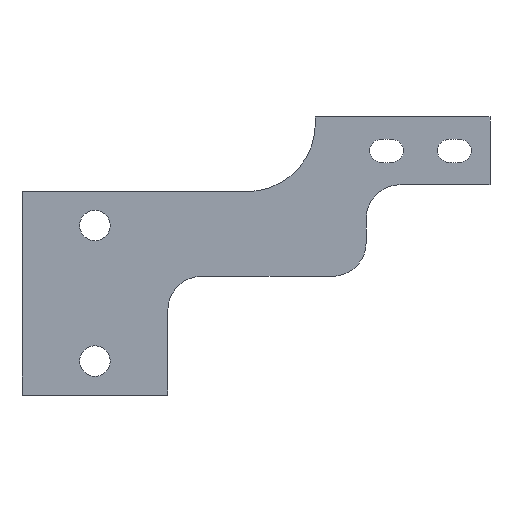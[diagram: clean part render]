
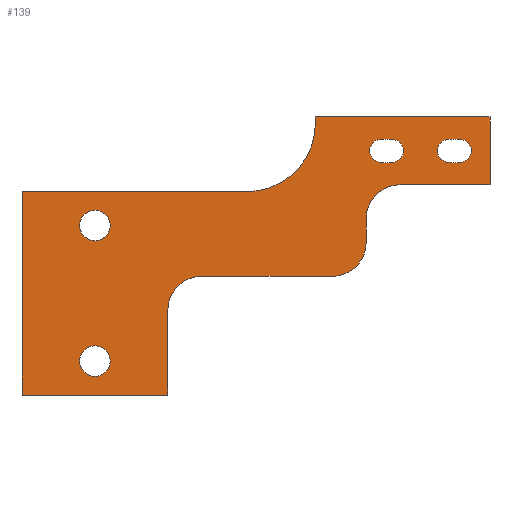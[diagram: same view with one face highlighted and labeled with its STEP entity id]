
A CAD part, front view. The second image highlights one B-rep face of the part: STEP entity #139.
In plain terms, the highlighted planar face has unit normal (0, -1, 0).
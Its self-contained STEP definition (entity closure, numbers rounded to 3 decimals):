
#103=PLANE('',#784);
#123=FACE_BOUND('',#217,.T.);
#124=FACE_BOUND('',#218,.T.);
#125=FACE_BOUND('',#219,.T.);
#126=FACE_BOUND('',#220,.T.);
#127=FACE_BOUND('',#221,.T.);
#139=ADVANCED_FACE('',(#123,#124,#125,#126,#127),#103,.T.);
#217=EDGE_LOOP('',(#399,#400,#401,#402,#403,#404,#405,#406));
#218=EDGE_LOOP('',(#407,#408,#409,#410,#411,#412,#413,#414,#415,#416,#417,
#418,#419,#420));
#219=EDGE_LOOP('',(#421));
#220=EDGE_LOOP('',(#422));
#221=EDGE_LOOP('',(#423,#424,#425,#426,#427,#428,#429,#430));
#263=LINE('',#1039,#329);
#264=LINE('',#1044,#330);
#265=LINE('',#1048,#331);
#266=LINE('',#1052,#332);
#267=LINE('',#1055,#333);
#268=LINE('',#1060,#334);
#269=LINE('',#1064,#335);
#270=LINE('',#1066,#336);
#271=LINE('',#1068,#337);
#272=LINE('',#1070,#338);
#273=LINE('',#1074,#339);
#274=LINE('',#1076,#340);
#275=LINE('',#1078,#341);
#276=LINE('',#1080,#342);
#277=LINE('',#1087,#343);
#278=LINE('',#1091,#344);
#279=LINE('',#1092,#345);
#280=LINE('',#1096,#346);
#329=VECTOR('',#846,1.);
#330=VECTOR('',#849,1.);
#331=VECTOR('',#852,1.);
#332=VECTOR('',#855,1.);
#333=VECTOR('',#858,1.);
#334=VECTOR('',#861,1.);
#335=VECTOR('',#864,1.);
#336=VECTOR('',#865,1.);
#337=VECTOR('',#866,1.);
#338=VECTOR('',#867,1.);
#339=VECTOR('',#870,1.);
#340=VECTOR('',#871,1.);
#341=VECTOR('',#872,1.);
#342=VECTOR('',#873,1.);
#343=VECTOR('',#880,1.);
#344=VECTOR('',#883,1.);
#345=VECTOR('',#884,1.);
#346=VECTOR('',#887,1.);
#399=ORIENTED_EDGE('',*,*,#651,.F.);
#400=ORIENTED_EDGE('',*,*,#652,.F.);
#401=ORIENTED_EDGE('',*,*,#653,.F.);
#402=ORIENTED_EDGE('',*,*,#654,.F.);
#403=ORIENTED_EDGE('',*,*,#655,.F.);
#404=ORIENTED_EDGE('',*,*,#656,.F.);
#405=ORIENTED_EDGE('',*,*,#657,.F.);
#406=ORIENTED_EDGE('',*,*,#658,.F.);
#407=ORIENTED_EDGE('',*,*,#659,.F.);
#408=ORIENTED_EDGE('',*,*,#660,.T.);
#409=ORIENTED_EDGE('',*,*,#661,.F.);
#410=ORIENTED_EDGE('',*,*,#662,.T.);
#411=ORIENTED_EDGE('',*,*,#663,.F.);
#412=ORIENTED_EDGE('',*,*,#664,.F.);
#413=ORIENTED_EDGE('',*,*,#665,.F.);
#414=ORIENTED_EDGE('',*,*,#666,.F.);
#415=ORIENTED_EDGE('',*,*,#667,.T.);
#416=ORIENTED_EDGE('',*,*,#668,.F.);
#417=ORIENTED_EDGE('',*,*,#669,.F.);
#418=ORIENTED_EDGE('',*,*,#670,.F.);
#419=ORIENTED_EDGE('',*,*,#671,.F.);
#420=ORIENTED_EDGE('',*,*,#672,.T.);
#421=ORIENTED_EDGE('',*,*,#673,.F.);
#422=ORIENTED_EDGE('',*,*,#674,.T.);
#423=ORIENTED_EDGE('',*,*,#643,.F.);
#424=ORIENTED_EDGE('',*,*,#675,.T.);
#425=ORIENTED_EDGE('',*,*,#676,.T.);
#426=ORIENTED_EDGE('',*,*,#677,.T.);
#427=ORIENTED_EDGE('',*,*,#647,.F.);
#428=ORIENTED_EDGE('',*,*,#678,.T.);
#429=ORIENTED_EDGE('',*,*,#679,.T.);
#430=ORIENTED_EDGE('',*,*,#680,.T.);
#579=VERTEX_POINT('',#1022);
#580=VERTEX_POINT('',#1023);
#583=VERTEX_POINT('',#1031);
#584=VERTEX_POINT('',#1032);
#587=VERTEX_POINT('',#1040);
#588=VERTEX_POINT('',#1041);
#589=VERTEX_POINT('',#1043);
#590=VERTEX_POINT('',#1045);
#591=VERTEX_POINT('',#1047);
#592=VERTEX_POINT('',#1049);
#593=VERTEX_POINT('',#1051);
#594=VERTEX_POINT('',#1053);
#595=VERTEX_POINT('',#1056);
#596=VERTEX_POINT('',#1057);
#597=VERTEX_POINT('',#1059);
#598=VERTEX_POINT('',#1061);
#599=VERTEX_POINT('',#1063);
#600=VERTEX_POINT('',#1065);
#601=VERTEX_POINT('',#1067);
#602=VERTEX_POINT('',#1069);
#603=VERTEX_POINT('',#1071);
#604=VERTEX_POINT('',#1073);
#605=VERTEX_POINT('',#1075);
#606=VERTEX_POINT('',#1077);
#607=VERTEX_POINT('',#1079);
#608=VERTEX_POINT('',#1081);
#609=VERTEX_POINT('',#1084);
#610=VERTEX_POINT('',#1086);
#611=VERTEX_POINT('',#1088);
#612=VERTEX_POINT('',#1090);
#613=VERTEX_POINT('',#1093);
#614=VERTEX_POINT('',#1095);
#643=EDGE_CURVE('',#579,#580,#737,.T.);
#647=EDGE_CURVE('',#583,#584,#739,.T.);
#651=EDGE_CURVE('',#587,#588,#263,.T.);
#652=EDGE_CURVE('',#589,#587,#741,.T.);
#653=EDGE_CURVE('',#590,#589,#264,.T.);
#654=EDGE_CURVE('',#591,#590,#742,.T.);
#655=EDGE_CURVE('',#592,#591,#265,.T.);
#656=EDGE_CURVE('',#593,#592,#743,.T.);
#657=EDGE_CURVE('',#594,#593,#266,.T.);
#658=EDGE_CURVE('',#588,#594,#744,.T.);
#659=EDGE_CURVE('',#595,#596,#267,.T.);
#660=EDGE_CURVE('',#595,#597,#745,.T.);
#661=EDGE_CURVE('',#598,#597,#268,.T.);
#662=EDGE_CURVE('',#598,#599,#746,.T.);
#663=EDGE_CURVE('',#600,#599,#269,.T.);
#664=EDGE_CURVE('',#601,#600,#270,.T.);
#665=EDGE_CURVE('',#602,#601,#271,.T.);
#666=EDGE_CURVE('',#603,#602,#272,.T.);
#667=EDGE_CURVE('',#603,#604,#747,.T.);
#668=EDGE_CURVE('',#605,#604,#273,.T.);
#669=EDGE_CURVE('',#606,#605,#274,.T.);
#670=EDGE_CURVE('',#607,#606,#275,.T.);
#671=EDGE_CURVE('',#608,#607,#276,.T.);
#672=EDGE_CURVE('',#608,#596,#748,.T.);
#673=EDGE_CURVE('',#609,#609,#749,.T.);
#674=EDGE_CURVE('',#610,#610,#750,.T.);
#675=EDGE_CURVE('',#579,#611,#277,.T.);
#676=EDGE_CURVE('',#611,#612,#751,.T.);
#677=EDGE_CURVE('',#612,#584,#278,.T.);
#678=EDGE_CURVE('',#583,#613,#279,.T.);
#679=EDGE_CURVE('',#613,#614,#752,.T.);
#680=EDGE_CURVE('',#614,#580,#280,.T.);
#737=CIRCLE('',#766,3.5);
#739=CIRCLE('',#769,3.5);
#741=CIRCLE('',#772,3.5);
#742=CIRCLE('',#773,3.4);
#743=CIRCLE('',#774,3.5);
#744=CIRCLE('',#775,3.4);
#745=CIRCLE('',#776,10.);
#746=CIRCLE('',#777,10.);
#747=CIRCLE('',#778,20.);
#748=CIRCLE('',#779,10.);
#749=CIRCLE('',#780,4.5);
#750=CIRCLE('',#781,4.5);
#751=CIRCLE('',#782,3.4);
#752=CIRCLE('',#783,3.4);
#766=AXIS2_PLACEMENT_3D('',#1021,#830,#831);
#769=AXIS2_PLACEMENT_3D('',#1030,#838,#839);
#772=AXIS2_PLACEMENT_3D('',#1042,#847,#848);
#773=AXIS2_PLACEMENT_3D('',#1046,#850,#851);
#774=AXIS2_PLACEMENT_3D('',#1050,#853,#854);
#775=AXIS2_PLACEMENT_3D('',#1054,#856,#857);
#776=AXIS2_PLACEMENT_3D('',#1058,#859,#860);
#777=AXIS2_PLACEMENT_3D('',#1062,#862,#863);
#778=AXIS2_PLACEMENT_3D('',#1072,#868,#869);
#779=AXIS2_PLACEMENT_3D('',#1082,#874,#875);
#780=AXIS2_PLACEMENT_3D('',#1083,#876,#877);
#781=AXIS2_PLACEMENT_3D('',#1085,#878,#879);
#782=AXIS2_PLACEMENT_3D('',#1089,#881,#882);
#783=AXIS2_PLACEMENT_3D('',#1094,#885,#886);
#784=AXIS2_PLACEMENT_3D('',#1097,#888,#889);
#830=DIRECTION('',(0.,-1.,0.));
#831=DIRECTION('',(1.,0.,0.));
#838=DIRECTION('',(0.,-1.,0.));
#839=DIRECTION('',(1.,0.,0.));
#846=DIRECTION('',(1.,0.,0.));
#847=DIRECTION('',(0.,-1.,0.));
#848=DIRECTION('',(1.,0.,0.));
#849=DIRECTION('',(1.,0.,0.));
#850=DIRECTION('',(0.,-1.,0.));
#851=DIRECTION('',(0.,0.,-1.));
#852=DIRECTION('',(-1.,0.,0.));
#853=DIRECTION('',(0.,-1.,0.));
#854=DIRECTION('',(1.,0.,0.));
#855=DIRECTION('',(-1.,0.,0.));
#856=DIRECTION('',(0.,-1.,0.));
#857=DIRECTION('',(0.,0.,-1.));
#858=DIRECTION('',(-1.,0.,0.));
#859=DIRECTION('',(0.,-1.,0.));
#860=DIRECTION('',(0.,0.,-1.));
#861=DIRECTION('',(0.,0.,-1.));
#862=DIRECTION('',(0.,1.,0.));
#863=DIRECTION('',(0.,0.,-1.));
#864=DIRECTION('',(-1.,0.,0.));
#865=DIRECTION('',(0.,0.,-1.));
#866=DIRECTION('',(1.,0.,0.));
#867=DIRECTION('',(0.,0.,1.));
#868=DIRECTION('',(0.,1.,0.));
#869=DIRECTION('',(0.,0.,-1.));
#870=DIRECTION('',(1.,0.,0.));
#871=DIRECTION('',(0.,0.,1.));
#872=DIRECTION('',(-1.,0.,0.));
#873=DIRECTION('',(0.,0.,-1.));
#874=DIRECTION('',(0.,1.,0.));
#875=DIRECTION('',(0.,0.,-1.));
#876=DIRECTION('',(0.,-1.,0.));
#877=DIRECTION('',(1.,0.,0.));
#878=DIRECTION('',(0.,1.,0.));
#879=DIRECTION('',(1.,0.,0.));
#880=DIRECTION('',(-1.,0.,0.));
#881=DIRECTION('',(0.,1.,0.));
#882=DIRECTION('',(0.,0.,-1.));
#883=DIRECTION('',(1.,0.,0.));
#884=DIRECTION('',(1.,0.,0.));
#885=DIRECTION('',(0.,1.,0.));
#886=DIRECTION('',(0.,0.,-1.));
#887=DIRECTION('',(-1.,0.,0.));
#888=DIRECTION('',(0.,-1.,0.));
#889=DIRECTION('',(0.,0.,-1.));
#1021=CARTESIAN_POINT('',(107.5,-10.,72.));
#1022=CARTESIAN_POINT('',(106.669,-10.,68.6));
#1023=CARTESIAN_POINT('',(108.331,-10.,68.6));
#1030=CARTESIAN_POINT('',(107.5,-10.,72.));
#1031=CARTESIAN_POINT('',(108.331,-10.,75.4));
#1032=CARTESIAN_POINT('',(106.669,-10.,75.4));
#1039=CARTESIAN_POINT('',(127.5,-10.,68.6));
#1040=CARTESIAN_POINT('',(128.331,-10.,68.6));
#1041=CARTESIAN_POINT('',(129.1,-10.,68.6));
#1042=CARTESIAN_POINT('',(127.5,-10.,72.));
#1043=CARTESIAN_POINT('',(126.669,-10.,68.6));
#1044=CARTESIAN_POINT('',(127.5,-10.,68.6));
#1045=CARTESIAN_POINT('',(125.9,-10.,68.6));
#1046=CARTESIAN_POINT('',(125.9,-10.,72.));
#1047=CARTESIAN_POINT('',(125.9,-10.,75.4));
#1048=CARTESIAN_POINT('',(127.5,-10.,75.4));
#1049=CARTESIAN_POINT('',(126.669,-10.,75.4));
#1050=CARTESIAN_POINT('',(127.5,-10.,72.));
#1051=CARTESIAN_POINT('',(128.331,-10.,75.4));
#1052=CARTESIAN_POINT('',(127.5,-10.,75.4));
#1053=CARTESIAN_POINT('',(129.1,-10.,75.4));
#1054=CARTESIAN_POINT('',(129.1,-10.,72.));
#1055=CARTESIAN_POINT('',(101.482,-10.,35.));
#1056=CARTESIAN_POINT('',(91.482,-10.,35.));
#1057=CARTESIAN_POINT('',(53.,-10.,35.));
#1058=CARTESIAN_POINT('',(91.482,-10.,45.));
#1059=CARTESIAN_POINT('',(101.482,-10.,45.));
#1060=CARTESIAN_POINT('',(101.482,-10.,62.));
#1061=CARTESIAN_POINT('',(101.482,-10.,52.));
#1062=CARTESIAN_POINT('',(111.482,-10.,52.));
#1063=CARTESIAN_POINT('',(111.482,-10.,62.));
#1064=CARTESIAN_POINT('',(138.,-10.,62.));
#1065=CARTESIAN_POINT('',(138.,-10.,62.));
#1066=CARTESIAN_POINT('',(138.,-10.,82.));
#1067=CARTESIAN_POINT('',(138.,-10.,82.));
#1068=CARTESIAN_POINT('',(86.482,-10.,82.));
#1069=CARTESIAN_POINT('',(86.482,-10.,82.));
#1070=CARTESIAN_POINT('',(86.482,-10.,60.));
#1071=CARTESIAN_POINT('',(86.482,-10.,80.));
#1072=CARTESIAN_POINT('',(66.482,-10.,80.));
#1073=CARTESIAN_POINT('',(66.482,-10.,60.));
#1074=CARTESIAN_POINT('',(0.,-10.,60.));
#1075=CARTESIAN_POINT('',(0.,-10.,60.));
#1076=CARTESIAN_POINT('',(0.,-10.,0.));
#1077=CARTESIAN_POINT('',(0.,-10.,0.));
#1078=CARTESIAN_POINT('',(43.,-10.,0.));
#1079=CARTESIAN_POINT('',(43.,-10.,0.));
#1080=CARTESIAN_POINT('',(43.,-10.,35.));
#1081=CARTESIAN_POINT('',(43.,-10.,25.));
#1082=CARTESIAN_POINT('',(53.,-10.,25.));
#1083=CARTESIAN_POINT('',(21.5,-10.,10.));
#1084=CARTESIAN_POINT('',(26.,-10.,10.));
#1085=CARTESIAN_POINT('',(21.5,-10.,50.));
#1086=CARTESIAN_POINT('',(26.,-10.,50.));
#1087=CARTESIAN_POINT('',(127.5,-10.,68.6));
#1088=CARTESIAN_POINT('',(105.9,-10.,68.6));
#1089=CARTESIAN_POINT('',(105.9,-10.,72.));
#1090=CARTESIAN_POINT('',(105.9,-10.,75.4));
#1091=CARTESIAN_POINT('',(127.5,-10.,75.4));
#1092=CARTESIAN_POINT('',(127.5,-10.,75.4));
#1093=CARTESIAN_POINT('',(109.1,-10.,75.4));
#1094=CARTESIAN_POINT('',(109.1,-10.,72.));
#1095=CARTESIAN_POINT('',(109.1,-10.,68.6));
#1096=CARTESIAN_POINT('',(127.5,-10.,68.6));
#1097=CARTESIAN_POINT('',(127.5,-10.,72.));
